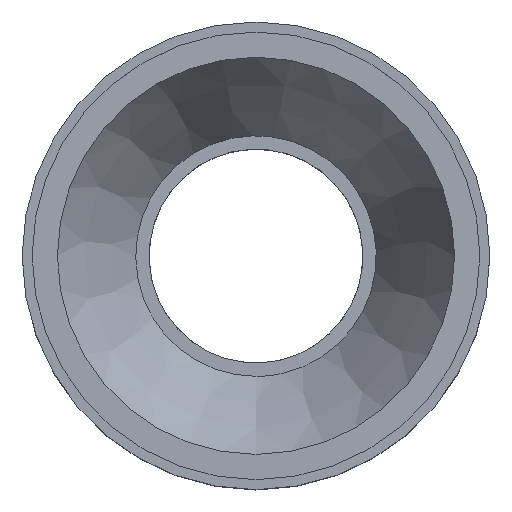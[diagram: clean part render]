
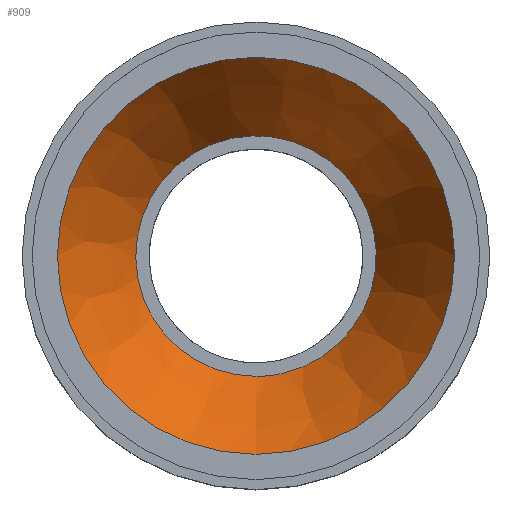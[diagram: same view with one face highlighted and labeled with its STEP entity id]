
A CAD part, top view. The second image highlights one B-rep face of the part: STEP entity #909.
In plain terms, the highlighted conical face has half-angle 29.757 degrees and reference radius 23.86 mm.
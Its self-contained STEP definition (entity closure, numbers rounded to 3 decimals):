
#823=CARTESIAN_POINT('',(4.08,-17.532,12.8));
#824=VERTEX_POINT('',#823);
#825=CARTESIAN_POINT('',(0.,0.,12.8));
#826=DIRECTION('',(0.,0.,-1.));
#827=DIRECTION('',(-0.227,0.974,0.));
#828=AXIS2_PLACEMENT_3D('',#825,#826,#827);
#829=CIRCLE('',#828,18.0);
#830=EDGE_CURVE('',#824,#824,#829,.T.);
#886=CARTESIAN_POINT('',(0.0,-29.72,33.3));
#887=VERTEX_POINT('',#886);
#888=CARTESIAN_POINT('',(0.0,0.0,33.3));
#889=DIRECTION('',(0.0,0.0,-1.0));
#890=DIRECTION('',(0.0,-1.0,0.0));
#891=AXIS2_PLACEMENT_3D('',#888,#889,#890);
#892=CIRCLE('',#891,29.72);
#893=EDGE_CURVE('',#887,#887,#892,.T.);
#898=CARTESIAN_POINT('',(0.0,0.0,23.05));
#899=DIRECTION('',(0.0,0.0,1.0));
#900=DIRECTION('',(0.0,-1.0,0.0));
#901=AXIS2_PLACEMENT_3D('',#898,#899,#900);
#902=CONICAL_SURFACE('',#901,23.86,29.757);
#903=ORIENTED_EDGE('',*,*,#830,.T.);
#904=EDGE_LOOP('',(#903));
#905=FACE_OUTER_BOUND('',#904,.T.);
#906=ORIENTED_EDGE('',*,*,#893,.F.);
#907=EDGE_LOOP('',(#906));
#908=FACE_BOUND('',#907,.T.);
#909=ADVANCED_FACE('',(#905,#908),#902,.F.);
